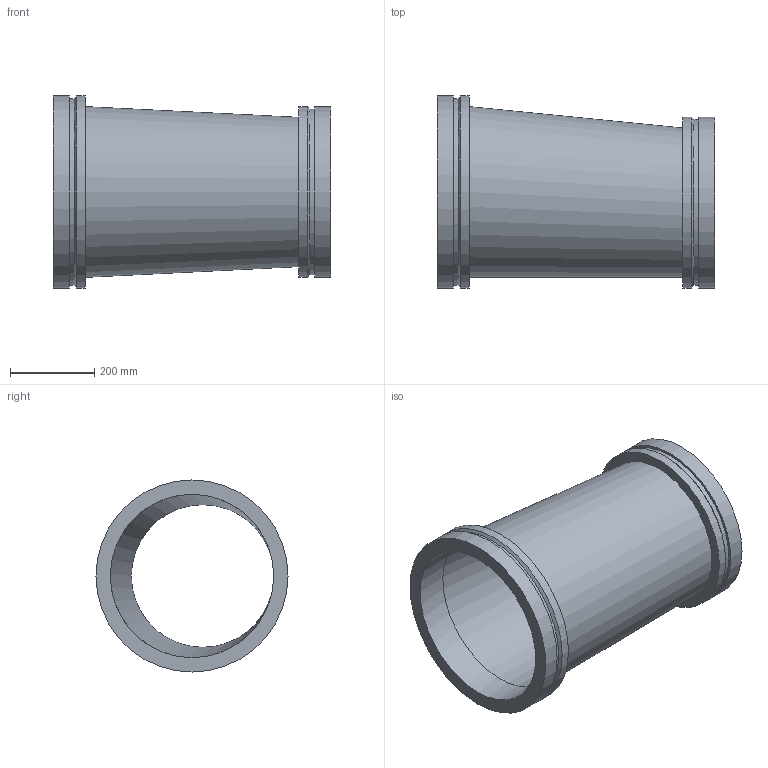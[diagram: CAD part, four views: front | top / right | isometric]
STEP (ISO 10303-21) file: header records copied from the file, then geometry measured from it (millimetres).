
FILE_DESCRIPTION(/* description */ ('VIC REDUCER ECCENTRIC No W51-VR','CAx-IF Rec.Pracs.---Representation and Presentation of Product Manufacturing Information (PMI)---4.0---2014-10-13'),/* implementation_level */ '2;1');
FILE_NAME(/* name */ 'C:\Users\kkamble\AppData\Roaming\Autodesk\ApplicationPlugins\Back Up\Victaulic_Vic-Ring_Reducer Eccentric_No W51 VR (AGR)\Victaulic_Vic-Ring_Reducer Eccentric_No W51 VR (AGR)_16.0x14.0 (400x350).stp',/* time_stamp */ '2020-09-10T11:48:50+05:00',/* author */ ('CONSTRUCTION PIPING SERVICES'),/* organization */ ('Victaulic'),/* preprocessor_version */ 'ST-DEVELOPER v17.2',/* originating_system */ 'Autodesk Inventor 2019',/* authorisation */ '');
FILE_SCHEMA (('AP242_MANAGED_MODEL_BASED_3D_ENGINEERING_MIM_LF { 1 0 10303 442 1 1 4 }'));
Length unit declared in the file: inch
Products named in the file (1): W51 VR-16.0x14.0
Bounding box: 660.4 x 457.2 x 457.2 mm (x, y, z)
Volume: 11204220.9 mm3; surface area: 1745850.2 mm2
Topology: 1 solids, 1 shells, 18 faces, 52 edges, 40 vertices
Faces by surface type: cylinder 8, plane 6, cone 2, bspline 2
Full cylindrical faces by diameter (mm): 339.598 x1, 388.823 x1, 393.7 x1, 406.4 x2, 444.5 x1, 457.2 x2
Entity records: 822 total; most frequent: CARTESIAN_POINT 164, DIRECTION 150, ORIENTED_EDGE 104, AXIS2_PLACEMENT_3D 70, EDGE_CURVE 52, CIRCLE 40, VERTEX_POINT 40, EDGE_LOOP 24
